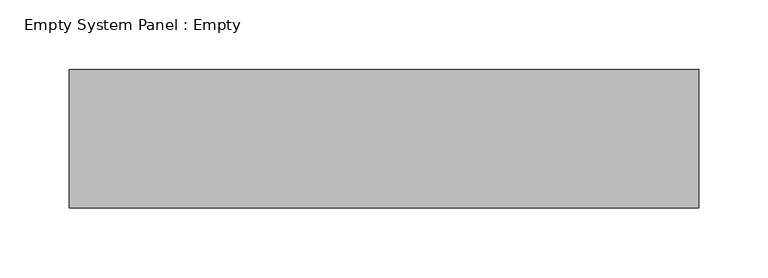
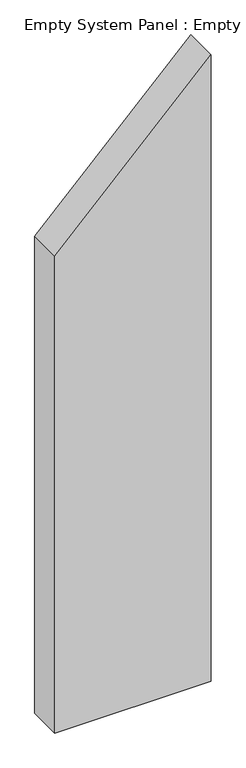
"""IFC4 building model written with IfcOpenShell, lengths in millimetres: plate geometry, Empty System Panel : Empty."""

from ifc_helpers import new_model, si_unit, frame, origin, place, context, project, spatial, polyline, outline, extrude, source, transform, mapped, element, save


def empty_system_panel_empty_d8ed4732(model_context):
    return source(origin(), model_context, "Body", "SweptSolid", [
        extrude(outline(polyline([(0.0, -226.4404253), (0.0, 226.4404253), (1916.4700656, 226.4404253), (1458.5226463, -226.4404253), (0.0, -226.4404253)])), frame((0.0, -50.0, 0.0), z_axis=(0.0, 1.0, 0.0), x_axis=(0.0, 0.0, 1.0)), (0.0, 0.0, 1.0), 100.0),
    ])


if __name__ == "__main__":
    model = new_model("IFC4")
    model_context = context("Model", 3, world=origin())
    ifc_project = project(units=[si_unit("LENGTHUNIT", "METRE", prefix="MILLI")], contexts=[model_context])
    site = spatial("IfcSite", under=ifc_project)
    building = spatial("IfcBuilding", under=site)
    placement = place(None, origin())
    empty_system_panel_empty_shape = empty_system_panel_empty_d8ed4732(model_context)
    element("IfcPlate", 1, ObjectType="Empty System Panel : Empty", at=placement, inside=building, context=model_context, shape_type="MappedRepresentation", body=[
        mapped(empty_system_panel_empty_shape, transform((0.0, 0.0, 0.0), x_axis=(1.0, 0.0, 0.0), y_axis=(0.0, 1.0, 0.0), z_axis=(0.0, 0.0, 1.0))),
    ])
    save(model, "model.ifc")
